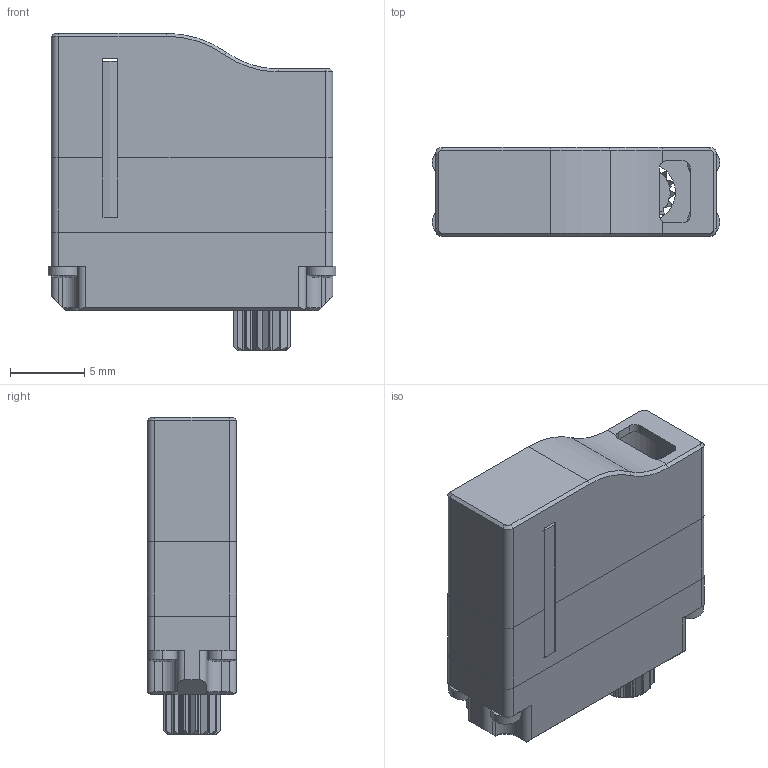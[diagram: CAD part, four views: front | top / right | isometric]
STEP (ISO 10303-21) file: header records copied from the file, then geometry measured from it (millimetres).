
FILE_DESCRIPTION (( 'STEP AP214' ), '1' );
FILE_NAME ('HV&LV 06N_DM_20220705.SLDPRT.STEP', '2022-07-05T07:05:53', ( '微软用户' ), ( '微软中国' ), 'SwSTEP 2.0', 'SolidWorks 2016', '' );
FILE_SCHEMA (( 'AUTOMOTIVE_DESIGN' ));
Length unit declared in the file: millimetre
Products named in the file (1): HV&LV 06N_DM_20220705.SLDPRT
Bounding box: 19.4 x 6 x 21.4 mm (x, y, z)
Surface area: 1603.2 mm2 (no closed solid volume)
Topology: 0 solids, 9 shells, 277 faces, 828 edges, 556 vertices
Faces by surface type: plane 143, cylinder 96, cone 30, sphere 8
Entity records: 12444 total; most frequent: CARTESIAN_POINT 2033, DIRECTION 1568, ORIENTED_EDGE 1470, EDGE_CURVE 828, AXIS2_PLACEMENT_3D 575, VERTEX_POINT 556, VECTOR 418, LINE 418
